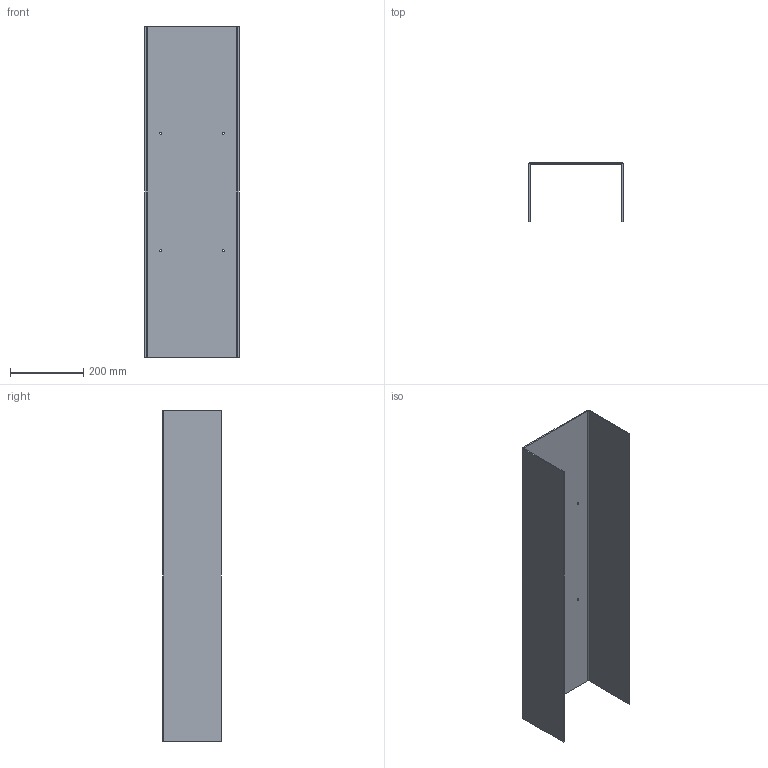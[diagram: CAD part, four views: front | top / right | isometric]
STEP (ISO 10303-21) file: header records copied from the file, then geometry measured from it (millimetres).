
FILE_DESCRIPTION (( 'STEP AP214' ), '1' );
FILE_NAME ('NF-800.STEP', '2018-12-21T13:51:42', ( '' ), ( '' ), 'SwSTEP 2.0', 'SolidWorks 2018', '' );
FILE_SCHEMA (( 'AUTOMOTIVE_DESIGN' ));
Length unit declared in the file: millimetre
Products named in the file (1): NF-800
Bounding box: 256 x 160 x 900 mm (x, y, z)
Volume: 1538660.7 mm3; surface area: 1030184.6 mm2
Topology: 1 solids, 1 shells, 22 faces, 60 edges, 40 vertices
Faces by surface type: cylinder 12, plane 10
Entity records: 802 total; most frequent: DIRECTION 130, CARTESIAN_POINT 123, ORIENTED_EDGE 120, EDGE_CURVE 60, AXIS2_PLACEMENT_3D 47, VERTEX_POINT 40, LINE 36, VECTOR 36
